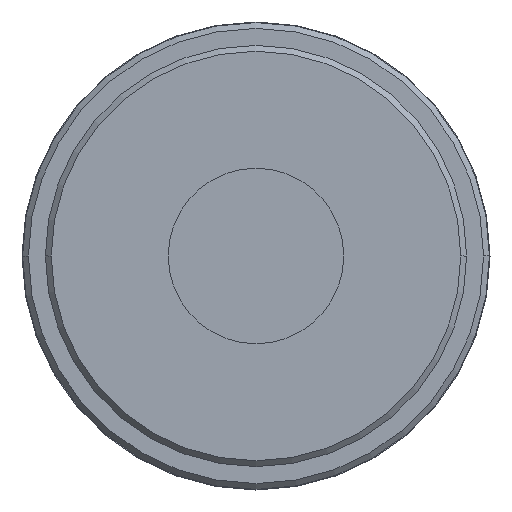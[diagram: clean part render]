
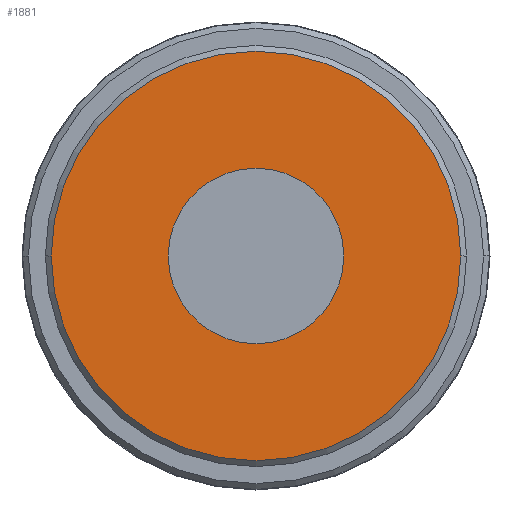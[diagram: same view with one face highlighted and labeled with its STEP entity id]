
A CAD part, front view. The second image highlights one B-rep face of the part: STEP entity #1881.
In plain terms, the highlighted planar face has unit normal (0, -1, 0).
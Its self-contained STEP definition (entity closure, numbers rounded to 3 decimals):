
#426 = CIRCLE ( 'NONE', #5072, 15. ) ;
#585 = AXIS2_PLACEMENT_3D ( 'NONE', #5765, #700, #5193 ) ;
#618 = ORIENTED_EDGE ( 'NONE', *, *, #5599, .F. ) ;
#647 = CIRCLE ( 'NONE', #585, 35. ) ;
#700 = DIRECTION ( 'NONE',  ( 0., -1., 0. ) ) ;
#852 = ORIENTED_EDGE ( 'NONE', *, *, #5480, .T. ) ;
#961 = AXIS2_PLACEMENT_3D ( 'NONE', #3246, #5811, #4783 ) ;
#976 = VERTEX_POINT ( 'NONE', #5869 ) ;
#1067 = DIRECTION ( 'NONE',  ( 0., -1., 0. ) ) ;
#1086 = DIRECTION ( 'NONE',  ( 1., 0., 0. ) ) ;
#1141 = DIRECTION ( 'NONE',  ( 0., -1., 0. ) ) ;
#1591 = DIRECTION ( 'NONE',  ( 1., 0., 0. ) ) ;
#1881 = ADVANCED_FACE ( 'NONE', ( #2795, #5618 ), #5349, .F. ) ;
#2087 = CARTESIAN_POINT ( 'NONE',  ( 0., 0., 0. ) ) ;
#2190 = DIRECTION ( 'NONE',  ( 0., -1., 0. ) ) ;
#2305 = EDGE_CURVE ( 'NONE', #4558, #2314, #647, .T. ) ;
#2314 = VERTEX_POINT ( 'NONE', #4263 ) ;
#2530 = EDGE_CURVE ( 'NONE', #3028, #976, #3957, .T. ) ;
#2660 = CARTESIAN_POINT ( 'NONE',  ( 0., 0., 0. ) ) ;
#2795 = FACE_BOUND ( 'NONE', #5778, .T. ) ;
#3028 = VERTEX_POINT ( 'NONE', #3736 ) ;
#3093 = CARTESIAN_POINT ( 'NONE',  ( 35., 0., 0. ) ) ;
#3246 = CARTESIAN_POINT ( 'NONE',  ( -15., 0., 0. ) ) ;
#3316 = AXIS2_PLACEMENT_3D ( 'NONE', #2087, #1141, #1591 ) ;
#3736 = CARTESIAN_POINT ( 'NONE',  ( 15., 0., 0. ) ) ;
#3957 = CIRCLE ( 'NONE', #3316, 15. ) ;
#4263 = CARTESIAN_POINT ( 'NONE',  ( -35., 0., 0. ) ) ;
#4378 = ORIENTED_EDGE ( 'NONE', *, *, #2530, .F. ) ;
#4558 = VERTEX_POINT ( 'NONE', #3093 ) ;
#4587 = CARTESIAN_POINT ( 'NONE',  ( 0., 0., 0. ) ) ;
#4629 = CIRCLE ( 'NONE', #6325, 35. ) ;
#4783 = DIRECTION ( 'NONE',  ( -1., 0., 0. ) ) ;
#5072 = AXIS2_PLACEMENT_3D ( 'NONE', #2660, #2190, #5700 ) ;
#5193 = DIRECTION ( 'NONE',  ( 1., 0., 0. ) ) ;
#5349 = PLANE ( 'NONE',  #961 ) ;
#5480 = EDGE_CURVE ( 'NONE', #2314, #4558, #4629, .T. ) ;
#5599 = EDGE_CURVE ( 'NONE', #976, #3028, #426, .T. ) ;
#5618 = FACE_OUTER_BOUND ( 'NONE', #6257, .T. ) ;
#5700 = DIRECTION ( 'NONE',  ( 1., 0., 0. ) ) ;
#5765 = CARTESIAN_POINT ( 'NONE',  ( 0., 0., 0. ) ) ;
#5778 = EDGE_LOOP ( 'NONE', ( #4378, #618 ) ) ;
#5811 = DIRECTION ( 'NONE',  ( 0., 1., 0. ) ) ;
#5869 = CARTESIAN_POINT ( 'NONE',  ( -15., 0., 0. ) ) ;
#6257 = EDGE_LOOP ( 'NONE', ( #852, #6346 ) ) ;
#6325 = AXIS2_PLACEMENT_3D ( 'NONE', #4587, #1067, #1086 ) ;
#6346 = ORIENTED_EDGE ( 'NONE', *, *, #2305, .T. ) ;
